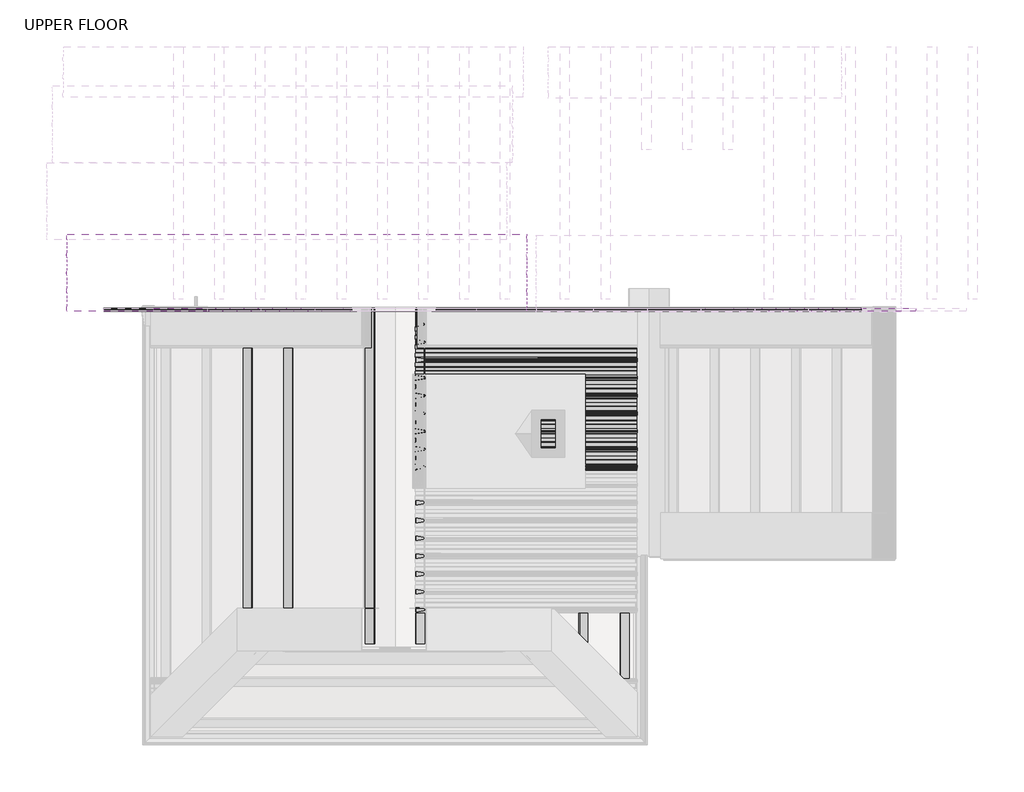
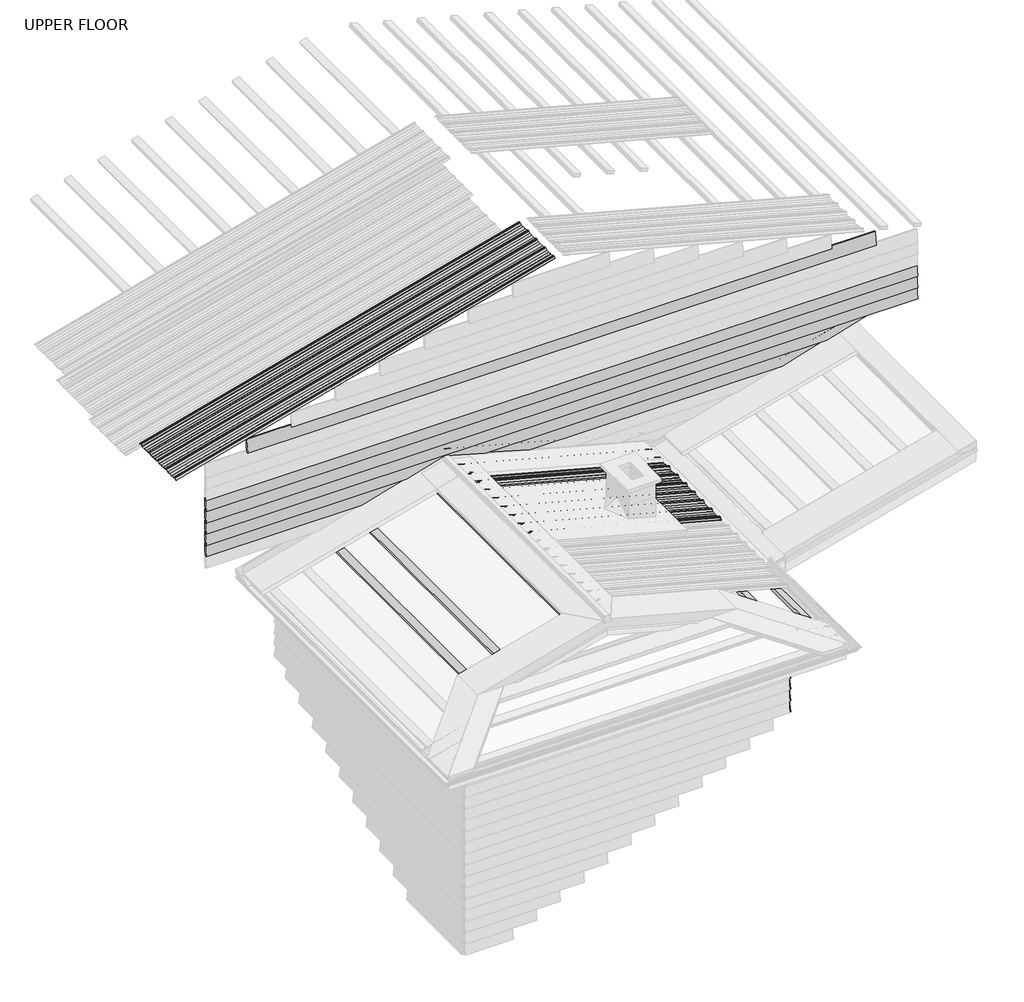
# One storey, part 5 of 8: 27 beams.
"""IFC4 building model written with IfcOpenShell, lengths in millimetres."""

from ifc_helpers import new_model, si_unit, point, frame, frame_2d, origin, place, context, project, spatial, polyline, circle_curve, trimmed, segment, composite_curve, outline, extrude, faceted_brep, transform, mapped, element, save
from components import beam_005bef61, beam_88fd5e57, beam_653da2ef, beam_8964b9ef, beam_29e33842, beam_1adccc99, beam_b3412224, beam_2acd9a67, timber_gauged_nz_90_x_45_ddc52903, timber_gauged_nz_90_x_45_22b23b48, timber_gauged_nz_90_x_45_fdef7c8e

model = new_model("IFC4")

# Units and contexts
model_context = context("Model", 3, world=origin())
ifc_project = project(units=[si_unit("LENGTHUNIT", "METRE", prefix="MILLI")], contexts=[model_context])

# Site, building, storey
site = spatial("IfcSite", under=ifc_project)
building = spatial("IfcBuilding", under=site)
storey = spatial("IfcBuildingStorey", under=building, Name="UPPER FLOOR", Elevation=2700.0)

# Beams
placement = place(None, origin())
element("IfcBeam", 1, ObjectType="3D_Metalcraft T-Rib : 3D_Metalcraft T-Rib", at=placement, inside=storey, context=model_context, shape_type="SweptSolid", body=[
    extrude(outline(composite_curve([segment(polyline([(0.0, 0.0), (41.1765297, -17.232464)]), True, "CONTINUOUS"), segment(trimmed(circle_curve(frame_2d((38.7817106, -20.9335667)), 4.4083239), [point((41.1765297, -17.232464))], [point((43.0853462, -19.9785591))], False, "CARTESIAN"), True, "CONTINUOUS"), segment(polyline([(43.0853462, -19.9785591), (48.0501249, -45.9497705)]), True, "CONTINUOUS"), segment(trimmed(circle_curve(frame_2d((49.8317805, -45.6091809)), 1.8139178), [point((48.0501249, -45.9497705))], [point((48.771325, -47.0808235))], True, "CARTESIAN"), True, "CONTINUOUS"), segment(trimmed(circle_curve(frame_2d((68.2146871, -24.1039222)), 30.0995402), [point((48.771325, -47.0808235))], [point((56.5999877, -51.8722689))], True, "CARTESIAN"), True, "CONTINUOUS"), segment(trimmed(circle_curve(frame_2d((68.2255997, -24.1084891)), 30.0995402), [point((56.5999877, -51.8722689))], [point((65.5078144, -54.0850794))], True, "CARTESIAN"), True, "CONTINUOUS"), segment(trimmed(circle_curve(frame_2d((65.8116479, -52.2967889)), 1.8139178), [point((65.5078144, -54.0850794))], [point((66.8196386, -53.8048513))], True, "CARTESIAN"), True, "CONTINUOUS"), segment(polyline([(66.8196386, -53.8048513), (88.1574709, -39.5426187)]), True, "CONTINUOUS"), segment(trimmed(circle_curve(frame_2d((88.43532, -39.9583106)), 0.5), [point((88.1574709, -39.5426187))], [point((88.7131691, -40.3740027))], False, "CARTESIAN"), True, "CONTINUOUS"), segment(polyline([(88.7131691, -40.3740027), (67.1225767, -54.8051806)]), True, "CONTINUOUS"), segment(trimmed(circle_curve(frame_2d((66.0571023, -53.2111166)), 1.9173616), [point((67.1225767, -54.8051806))], [point((65.8470629, -55.116939))], False, "CARTESIAN"), True, "CONTINUOUS"), segment(trimmed(circle_curve(frame_2d((68.2255997, -24.1084891)), 31.0995402), [point((65.8470629, -55.116939))], [point((56.2139301, -52.7947436))], False, "CARTESIAN"), True, "CONTINUOUS"), segment(trimmed(circle_curve(frame_2d((68.2146871, -24.1039222)), 31.0995402), [point((56.2139301, -52.7947436))], [point((47.7982512, -47.5634735))], False, "CARTESIAN"), True, "CONTINUOUS"), segment(trimmed(circle_curve(frame_2d((49.0082552, -46.0761383)), 1.9173616), [point((47.7982512, -47.5634735))], [point((47.1249957, -46.436151))], False, "CARTESIAN"), True, "CONTINUOUS"), segment(polyline([(47.1249957, -46.436151), (42.1060781, -20.1817343)]), True, "CONTINUOUS"), segment(trimmed(circle_curve(frame_2d((38.7817106, -20.9335667)), 3.4083239), [point((42.1060781, -20.1817343))], [point((40.7028446, -18.1182665))], True, "CARTESIAN"), True, "CONTINUOUS"), segment(polyline([(40.7028446, -18.1182665), (-0.2008129, -1.0), (-4.6628868, -1.0), (-39.4345071, 13.551996), (-42.5665219, 16.730138), (-81.2568943, 32.92214)]), True, "CONTINUOUS"), segment(trimmed(circle_curve(frame_2d((-81.9136301, 29.5776865)), 3.4083239), [point((-81.2568943, 32.92214))], [point((-83.9015601, 32.3462251))], True, "CARTESIAN"), True, "CONTINUOUS"), segment(polyline([(-83.9015601, 32.3462251), (-107.045629, 16.8767016)]), True, "CONTINUOUS"), segment(trimmed(circle_curve(frame_2d((-109.2669983, 20.3574483)), 4.1291741), [point((-107.045629, 16.8767016))], [point((-109.5750829, 16.2397836))], False, "CARTESIAN"), True, "CONTINUOUS"), segment(trimmed(circle_curve(frame_2d((-107.0445899, 49.2424527)), 33.0995402), [point((-109.5750829, 16.2397836))], [point((-119.8283746, 18.7112488))], False, "CARTESIAN"), True, "CONTINUOUS"), segment(trimmed(circle_curve(frame_2d((-107.0555025, 49.2470196)), 33.0995402), [point((-119.8283746, 18.7112488))], [point((-128.7856734, 24.279456))], False, "CARTESIAN"), True, "CONTINUOUS"), segment(trimmed(circle_curve(frame_2d((-126.0690895, 27.3891587)), 4.1291741), [point((-128.7856734, 24.279456))], [point((-130.1074961, 26.5281413))], False, "CARTESIAN"), True, "CONTINUOUS"), segment(polyline([(-130.1074961, 26.5281413), (-135.3344879, 53.8710132)]), True, "CONTINUOUS"), segment(trimmed(circle_curve(frame_2d((-138.7017641, 53.3436396)), 3.4083239), [point((-135.3344879, 53.8710132))], [point((-136.78063, 56.1589398))], True, "CARTESIAN"), True, "CONTINUOUS"), segment(polyline([(-136.78063, 56.1589398), (-175.4710024, 72.3509418), (-179.9330763, 72.3509418), (-214.7046967, 86.9029378), (-217.8367115, 90.0810798), (-256.5270839, 106.2730818)]), True, "CONTINUOUS"), segment(trimmed(circle_curve(frame_2d((-257.1838197, 102.9286282)), 3.4083239), [point((-256.5270839, 106.2730818))], [point((-259.1717496, 105.6971669))], True, "CARTESIAN"), True, "CONTINUOUS"), segment(polyline([(-259.1717496, 105.6971669), (-282.3158186, 90.2276434)]), True, "CONTINUOUS"), segment(trimmed(circle_curve(frame_2d((-284.5371879, 93.7083901)), 4.1291741), [point((-282.3158186, 90.2276434))], [point((-284.8452724, 89.5907254))], False, "CARTESIAN"), True, "CONTINUOUS"), segment(trimmed(circle_curve(frame_2d((-282.3147794, 122.5933945)), 33.0995402), [point((-284.8452724, 89.5907254))], [point((-295.0985641, 92.0621906))], False, "CARTESIAN"), True, "CONTINUOUS"), segment(trimmed(circle_curve(frame_2d((-282.325692, 122.5979614)), 33.0995402), [point((-295.0985641, 92.0621906))], [point((-304.0558629, 97.6303978))], False, "CARTESIAN"), True, "CONTINUOUS"), segment(trimmed(circle_curve(frame_2d((-301.3392791, 100.7401005)), 4.1291741), [point((-304.0558629, 97.6303978))], [point((-305.3776856, 99.8790831))], False, "CARTESIAN"), True, "CONTINUOUS"), segment(polyline([(-305.3776856, 99.8790831), (-310.6046774, 127.221955)]), True, "CONTINUOUS"), segment(trimmed(circle_curve(frame_2d((-313.9719536, 126.6945814)), 3.4083239), [point((-310.6046774, 127.221955))], [point((-312.0508195, 129.5098816))], True, "CARTESIAN"), True, "CONTINUOUS"), segment(polyline([(-312.0508195, 129.5098816), (-350.7411919, 145.7018835), (-355.2032658, 145.7018836), (-389.9748862, 160.2538796), (-393.106901, 163.4320216), (-431.7972734, 179.6240236)]), True, "CONTINUOUS"), segment(trimmed(circle_curve(frame_2d((-432.4540092, 176.27957)), 3.4083239), [point((-431.7972734, 179.6240236))], [point((-434.4419392, 179.0481087))], True, "CARTESIAN"), True, "CONTINUOUS"), segment(polyline([(-434.4419392, 179.0481087), (-457.5860081, 163.5785852)]), True, "CONTINUOUS"), segment(trimmed(circle_curve(frame_2d((-459.8073774, 167.0593319)), 4.1291741), [point((-457.5860081, 163.5785852))], [point((-460.1154619, 162.9416672))], False, "CARTESIAN"), True, "CONTINUOUS"), segment(trimmed(circle_curve(frame_2d((-457.5849689, 195.9443363)), 33.0995402), [point((-460.1154619, 162.9416672))], [point((-470.3687537, 165.4131324))], False, "CARTESIAN"), True, "CONTINUOUS"), segment(trimmed(circle_curve(frame_2d((-457.5958815, 195.9489032)), 33.0995402), [point((-470.3687537, 165.4131324))], [point((-479.3260524, 170.9813396))], False, "CARTESIAN"), True, "CONTINUOUS"), segment(trimmed(circle_curve(frame_2d((-476.6094686, 174.0910423)), 4.1291741), [point((-479.3260524, 170.9813396))], [point((-480.6478751, 173.2300249))], False, "CARTESIAN"), True, "CONTINUOUS"), segment(polyline([(-480.6478751, 173.2300249), (-485.874867, 200.5728968)]), True, "CONTINUOUS"), segment(trimmed(circle_curve(frame_2d((-489.2421431, 200.0455231)), 3.4083239), [point((-485.874867, 200.5728968))], [point((-487.3210091, 202.8608234))], True, "CARTESIAN"), True, "CONTINUOUS"), segment(polyline([(-487.3210091, 202.8608234), (-526.0113815, 219.0528253), (-530.4734554, 219.0528254), (-565.2450757, 233.6048214), (-568.3770905, 236.7829634), (-607.0674629, 252.9749654)]), True, "CONTINUOUS"), segment(trimmed(circle_curve(frame_2d((-607.7241987, 249.6305118)), 3.4083239), [point((-607.0674629, 252.9749654))], [point((-609.7121287, 252.3990505))], True, "CARTESIAN"), True, "CONTINUOUS"), segment(polyline([(-609.7121287, 252.3990505), (-632.8561976, 236.929527)]), True, "CONTINUOUS"), segment(trimmed(circle_curve(frame_2d((-635.0775669, 240.4102737)), 4.1291741), [point((-632.8561976, 236.929527))], [point((-635.3856515, 236.292609))], False, "CARTESIAN"), True, "CONTINUOUS"), segment(trimmed(circle_curve(frame_2d((-632.8551585, 269.2952781)), 33.0995402), [point((-635.3856515, 236.292609))], [point((-645.6389433, 238.7640742))], False, "CARTESIAN"), True, "CONTINUOUS"), segment(trimmed(circle_curve(frame_2d((-632.8660711, 269.299845)), 33.0995402), [point((-645.6389433, 238.7640742))], [point((-654.596242, 244.3322814))], False, "CARTESIAN"), True, "CONTINUOUS"), segment(trimmed(circle_curve(frame_2d((-651.8796581, 247.441984)), 4.1291741), [point((-654.596242, 244.3322814))], [point((-655.9180648, 246.5809668))], False, "CARTESIAN"), True, "CONTINUOUS"), segment(polyline([(-655.9180648, 246.5809668), (-660.7374633, 271.7916806)]), True, "CONTINUOUS"), segment(trimmed(circle_curve(frame_2d((-664.0618307, 271.0398477)), 3.4083239), [point((-660.7374633, 271.7916806))], [point((-662.1406965, 273.855148))], True, "CARTESIAN"), True, "CONTINUOUS"), segment(polyline([(-662.1406965, 273.855148), (-665.4188428, 275.227059)]), True, "CONTINUOUS"), segment(trimmed(circle_curve(frame_2d((-665.225814, 275.6882964)), 0.5), [point((-665.4188428, 275.227059))], [point((-665.0327852, 276.1495337))], False, "CARTESIAN"), True, "CONTINUOUS"), segment(polyline([(-665.0327852, 276.1495337), (-661.6670116, 274.7409504)]), True, "CONTINUOUS"), segment(trimmed(circle_curve(frame_2d((-664.0618307, 271.0398477)), 4.4083239), [point((-661.6670116, 274.7409504))], [point((-659.7581951, 271.994856))], False, "CARTESIAN"), True, "CONTINUOUS"), segment(polyline([(-659.7581951, 271.994856), (-654.9379765, 246.7798514)]), True, "CONTINUOUS"), segment(trimmed(circle_curve(frame_2d((-651.8796581, 247.441984)), 3.1291741), [point((-654.9379765, 246.7798514))], [point((-653.9389937, 245.0859562))], True, "CARTESIAN"), True, "CONTINUOUS"), segment(trimmed(circle_curve(frame_2d((-632.8660711, 269.299845)), 32.0995402), [point((-653.9389937, 245.0859562))], [point((-645.2528857, 239.6865489))], True, "CARTESIAN"), True, "CONTINUOUS"), segment(trimmed(circle_curve(frame_2d((-632.8551585, 269.2952781)), 32.0995402), [point((-645.2528857, 239.6865489))], [point((-635.3101766, 237.2897571))], True, "CARTESIAN"), True, "CONTINUOUS"), segment(trimmed(circle_curve(frame_2d((-635.0775669, 240.4102737)), 3.1291741), [point((-635.3101766, 237.2897571))], [point((-633.4024833, 237.7672024))], True, "CARTESIAN"), True, "CONTINUOUS"), segment(polyline([(-633.4024833, 237.7672024), (-610.0647921, 253.3661432)]), True, "CONTINUOUS"), segment(trimmed(circle_curve(frame_2d((-607.7241987, 249.6305118)), 4.4083239), [point((-610.0647921, 253.3661432))], [point((-606.7690327, 253.9341123))], False, "CARTESIAN"), True, "CONTINUOUS"), segment(polyline([(-606.7690327, 253.9341123), (-567.8057882, 237.6279128), (-564.6737734, 234.4497707), (-530.2726425, 220.0528253), (-525.8105686, 220.0528254), (-486.847324, 203.7466258)]), True, "CONTINUOUS"), segment(trimmed(circle_curve(frame_2d((-489.2421431, 200.0455231)), 4.4083239), [point((-486.847324, 203.7466258))], [point((-484.9385075, 201.0005307))], False, "CARTESIAN"), True, "CONTINUOUS"), segment(polyline([(-484.9385075, 201.0005307), (-479.6677869, 173.4289097)]), True, "CONTINUOUS"), segment(trimmed(circle_curve(frame_2d((-476.6094686, 174.0910423)), 3.1291741), [point((-479.6677869, 173.4289097))], [point((-478.6688042, 171.7350144))], True, "CARTESIAN"), True, "CONTINUOUS"), segment(trimmed(circle_curve(frame_2d((-457.5958815, 195.9489032)), 32.0995402), [point((-478.6688042, 171.7350144))], [point((-469.9826961, 166.3356071))], True, "CARTESIAN"), True, "CONTINUOUS"), segment(trimmed(circle_curve(frame_2d((-457.5849689, 195.9443363)), 32.0995402), [point((-469.9826961, 166.3356071))], [point((-460.0399871, 163.9388154))], True, "CARTESIAN"), True, "CONTINUOUS"), segment(trimmed(circle_curve(frame_2d((-459.8073774, 167.0593319)), 3.1291741), [point((-460.0399871, 163.9388154))], [point((-458.1322938, 164.4162606))], True, "CARTESIAN"), True, "CONTINUOUS"), segment(polyline([(-458.1322938, 164.4162606), (-434.7946026, 180.0152014)]), True, "CONTINUOUS"), segment(trimmed(circle_curve(frame_2d((-432.4540092, 176.27957)), 4.4083239), [point((-434.7946026, 180.0152014))], [point((-431.4988431, 180.5831705))], False, "CARTESIAN"), True, "CONTINUOUS"), segment(polyline([(-431.4988431, 180.5831705), (-392.5355987, 164.276971), (-389.4035839, 161.0988289), (-355.002453, 146.7018835), (-350.5403791, 146.7018836), (-311.5771345, 130.395684)]), True, "CONTINUOUS"), segment(trimmed(circle_curve(frame_2d((-313.9719536, 126.6945814)), 4.4083239), [point((-311.5771345, 130.395684))], [point((-309.6683179, 127.649589))], False, "CARTESIAN"), True, "CONTINUOUS"), segment(polyline([(-309.6683179, 127.649589), (-304.3975974, 100.0779679)]), True, "CONTINUOUS"), segment(trimmed(circle_curve(frame_2d((-301.3392791, 100.7401005)), 3.1291741), [point((-304.3975974, 100.0779679))], [point((-303.3986147, 98.3840726))], True, "CARTESIAN"), True, "CONTINUOUS"), segment(trimmed(circle_curve(frame_2d((-282.325692, 122.5979614)), 32.0995402), [point((-303.3986147, 98.3840726))], [point((-294.7125065, 92.9846653))], True, "CARTESIAN"), True, "CONTINUOUS"), segment(trimmed(circle_curve(frame_2d((-282.3147794, 122.5933945)), 32.0995402), [point((-294.7125065, 92.9846653))], [point((-284.7697976, 90.5878736))], True, "CARTESIAN"), True, "CONTINUOUS"), segment(trimmed(circle_curve(frame_2d((-284.5371879, 93.7083901)), 3.1291741), [point((-284.7697976, 90.5878736))], [point((-282.8621043, 91.0653188))], True, "CARTESIAN"), True, "CONTINUOUS"), segment(polyline([(-282.8621043, 91.0653188), (-259.5244131, 106.6642596)]), True, "CONTINUOUS"), segment(trimmed(circle_curve(frame_2d((-257.1838197, 102.9286282)), 4.4083239), [point((-259.5244131, 106.6642596))], [point((-256.2286536, 107.2322287))], False, "CARTESIAN"), True, "CONTINUOUS"), segment(polyline([(-256.2286536, 107.2322287), (-217.2654091, 90.9260292), (-214.1333944, 87.7478871), (-179.7322635, 73.3509417), (-175.2701895, 73.3509418), (-136.306945, 57.0447423)]), True, "CONTINUOUS"), segment(trimmed(circle_curve(frame_2d((-138.7017641, 53.3436396)), 4.4083239), [point((-136.306945, 57.0447423))], [point((-134.3981284, 54.2986472))], False, "CARTESIAN"), True, "CONTINUOUS"), segment(polyline([(-134.3981284, 54.2986472), (-129.1274079, 26.7270261)]), True, "CONTINUOUS"), segment(trimmed(circle_curve(frame_2d((-126.0690895, 27.3891587)), 3.1291741), [point((-129.1274079, 26.7270261))], [point((-128.1284251, 25.0331308))], True, "CARTESIAN"), True, "CONTINUOUS"), segment(trimmed(circle_curve(frame_2d((-107.0555025, 49.2470196)), 32.0995402), [point((-128.1284251, 25.0331308))], [point((-119.442317, 19.6337235))], True, "CARTESIAN"), True, "CONTINUOUS"), segment(trimmed(circle_curve(frame_2d((-107.0445899, 49.2424527)), 32.0995402), [point((-119.442317, 19.6337235))], [point((-109.4996081, 17.2369318))], True, "CARTESIAN"), True, "CONTINUOUS"), segment(trimmed(circle_curve(frame_2d((-109.2669983, 20.3574483)), 3.1291741), [point((-109.4996081, 17.2369318))], [point((-107.5919148, 17.714377))], True, "CARTESIAN"), True, "CONTINUOUS"), segment(polyline([(-107.5919148, 17.714377), (-84.2542235, 33.3133178)]), True, "CONTINUOUS"), segment(trimmed(circle_curve(frame_2d((-81.9136301, 29.5776865)), 4.4083239), [point((-84.2542235, 33.3133178))], [point((-80.9584641, 33.8812869))], False, "CARTESIAN"), True, "CONTINUOUS"), segment(polyline([(-80.9584641, 33.8812869), (-41.9952196, 17.5750874), (-38.8632048, 14.3969453), (-4.4620739, -1e-07), (0.0, 0.0)]), True, "CONTINUOUS")], self_intersect=False)), frame((-11190.2847188, -23088.4241842, 3266.5991596), z_axis=(-0.9659258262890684, 0.0, 0.25881904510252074), x_axis=(-0.09991905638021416, 0.9224746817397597, -0.3729029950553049)), (0.0, 0.0, 1.0), 2590.2025973),
])
element("IfcBeam", 2, ObjectType="3D_Metalcraft T-Rib : 3D_Metalcraft T-Rib", at=placement, inside=storey, context=model_context, shape_type="SweptSolid", body=[
    extrude(outline(composite_curve([segment(polyline([(0.0, 0.0), (41.1765297, -17.232464)]), True, "CONTINUOUS"), segment(trimmed(circle_curve(frame_2d((38.7817106, -20.9335667)), 4.4083239), [point((41.1765297, -17.232464))], [point((43.0853462, -19.9785591))], False, "CARTESIAN"), True, "CONTINUOUS"), segment(polyline([(43.0853462, -19.9785591), (48.0501249, -45.9497705)]), True, "CONTINUOUS"), segment(trimmed(circle_curve(frame_2d((49.8317805, -45.6091809)), 1.8139178), [point((48.0501249, -45.9497705))], [point((48.771325, -47.0808235))], True, "CARTESIAN"), True, "CONTINUOUS"), segment(trimmed(circle_curve(frame_2d((68.2146871, -24.1039222)), 30.0995402), [point((48.771325, -47.0808235))], [point((56.5999877, -51.8722689))], True, "CARTESIAN"), True, "CONTINUOUS"), segment(trimmed(circle_curve(frame_2d((68.2255997, -24.1084891)), 30.0995402), [point((56.5999877, -51.8722689))], [point((65.5078144, -54.0850794))], True, "CARTESIAN"), True, "CONTINUOUS"), segment(trimmed(circle_curve(frame_2d((65.8116479, -52.2967889)), 1.8139178), [point((65.5078144, -54.0850794))], [point((66.8196386, -53.8048513))], True, "CARTESIAN"), True, "CONTINUOUS"), segment(polyline([(66.8196386, -53.8048513), (88.1574709, -39.5426187)]), True, "CONTINUOUS"), segment(trimmed(circle_curve(frame_2d((88.43532, -39.9583106)), 0.5), [point((88.1574709, -39.5426187))], [point((88.7131691, -40.3740027))], False, "CARTESIAN"), True, "CONTINUOUS"), segment(polyline([(88.7131691, -40.3740027), (67.1225767, -54.8051806)]), True, "CONTINUOUS"), segment(trimmed(circle_curve(frame_2d((66.0571023, -53.2111166)), 1.9173616), [point((67.1225767, -54.8051806))], [point((65.8470629, -55.116939))], False, "CARTESIAN"), True, "CONTINUOUS"), segment(trimmed(circle_curve(frame_2d((68.2255997, -24.1084891)), 31.0995402), [point((65.8470629, -55.116939))], [point((56.2139301, -52.7947436))], False, "CARTESIAN"), True, "CONTINUOUS"), segment(trimmed(circle_curve(frame_2d((68.2146871, -24.1039222)), 31.0995402), [point((56.2139301, -52.7947436))], [point((47.7982512, -47.5634735))], False, "CARTESIAN"), True, "CONTINUOUS"), segment(trimmed(circle_curve(frame_2d((49.0082552, -46.0761383)), 1.9173616), [point((47.7982512, -47.5634735))], [point((47.1249957, -46.436151))], False, "CARTESIAN"), True, "CONTINUOUS"), segment(polyline([(47.1249957, -46.436151), (42.1060781, -20.1817343)]), True, "CONTINUOUS"), segment(trimmed(circle_curve(frame_2d((38.7817106, -20.9335667)), 3.4083239), [point((42.1060781, -20.1817343))], [point((40.7028446, -18.1182665))], True, "CARTESIAN"), True, "CONTINUOUS"), segment(polyline([(40.7028446, -18.1182665), (-0.2008129, -1.0), (-4.6628868, -1.0), (-39.4345071, 13.551996), (-42.5665219, 16.730138), (-81.2568943, 32.92214)]), True, "CONTINUOUS"), segment(trimmed(circle_curve(frame_2d((-81.9136301, 29.5776865)), 3.4083239), [point((-81.2568943, 32.92214))], [point((-83.9015601, 32.3462251))], True, "CARTESIAN"), True, "CONTINUOUS"), segment(polyline([(-83.9015601, 32.3462251), (-107.045629, 16.8767016)]), True, "CONTINUOUS"), segment(trimmed(circle_curve(frame_2d((-109.2669983, 20.3574483)), 4.1291741), [point((-107.045629, 16.8767016))], [point((-109.5750829, 16.2397836))], False, "CARTESIAN"), True, "CONTINUOUS"), segment(trimmed(circle_curve(frame_2d((-107.0445899, 49.2424527)), 33.0995402), [point((-109.5750829, 16.2397836))], [point((-119.8283746, 18.7112488))], False, "CARTESIAN"), True, "CONTINUOUS"), segment(trimmed(circle_curve(frame_2d((-107.0555025, 49.2470196)), 33.0995402), [point((-119.8283746, 18.7112488))], [point((-128.7856734, 24.279456))], False, "CARTESIAN"), True, "CONTINUOUS"), segment(trimmed(circle_curve(frame_2d((-126.0690895, 27.3891587)), 4.1291741), [point((-128.7856734, 24.279456))], [point((-130.1074961, 26.5281413))], False, "CARTESIAN"), True, "CONTINUOUS"), segment(polyline([(-130.1074961, 26.5281413), (-135.3344879, 53.8710132)]), True, "CONTINUOUS"), segment(trimmed(circle_curve(frame_2d((-138.7017641, 53.3436396)), 3.4083239), [point((-135.3344879, 53.8710132))], [point((-136.78063, 56.1589398))], True, "CARTESIAN"), True, "CONTINUOUS"), segment(polyline([(-136.78063, 56.1589398), (-175.4710024, 72.3509418), (-179.9330763, 72.3509418), (-214.7046967, 86.9029378), (-217.8367115, 90.0810798), (-256.5270839, 106.2730818)]), True, "CONTINUOUS"), segment(trimmed(circle_curve(frame_2d((-257.1838197, 102.9286282)), 3.4083239), [point((-256.5270839, 106.2730818))], [point((-259.1717496, 105.6971669))], True, "CARTESIAN"), True, "CONTINUOUS"), segment(polyline([(-259.1717496, 105.6971669), (-282.3158186, 90.2276434)]), True, "CONTINUOUS"), segment(trimmed(circle_curve(frame_2d((-284.5371879, 93.7083901)), 4.1291741), [point((-282.3158186, 90.2276434))], [point((-284.8452724, 89.5907254))], False, "CARTESIAN"), True, "CONTINUOUS"), segment(trimmed(circle_curve(frame_2d((-282.3147794, 122.5933945)), 33.0995402), [point((-284.8452724, 89.5907254))], [point((-295.0985641, 92.0621906))], False, "CARTESIAN"), True, "CONTINUOUS"), segment(trimmed(circle_curve(frame_2d((-282.325692, 122.5979614)), 33.0995402), [point((-295.0985641, 92.0621906))], [point((-304.0558629, 97.6303978))], False, "CARTESIAN"), True, "CONTINUOUS"), segment(trimmed(circle_curve(frame_2d((-301.3392791, 100.7401005)), 4.1291741), [point((-304.0558629, 97.6303978))], [point((-305.3776856, 99.8790831))], False, "CARTESIAN"), True, "CONTINUOUS"), segment(polyline([(-305.3776856, 99.8790831), (-310.6046774, 127.221955)]), True, "CONTINUOUS"), segment(trimmed(circle_curve(frame_2d((-313.9719536, 126.6945814)), 3.4083239), [point((-310.6046774, 127.221955))], [point((-312.0508195, 129.5098816))], True, "CARTESIAN"), True, "CONTINUOUS"), segment(polyline([(-312.0508195, 129.5098816), (-350.7411919, 145.7018835), (-355.2032658, 145.7018836), (-389.9748862, 160.2538796), (-393.106901, 163.4320216), (-431.7972734, 179.6240236)]), True, "CONTINUOUS"), segment(trimmed(circle_curve(frame_2d((-432.4540092, 176.27957)), 3.4083239), [point((-431.7972734, 179.6240236))], [point((-434.4419392, 179.0481087))], True, "CARTESIAN"), True, "CONTINUOUS"), segment(polyline([(-434.4419392, 179.0481087), (-457.5860081, 163.5785852)]), True, "CONTINUOUS"), segment(trimmed(circle_curve(frame_2d((-459.8073774, 167.0593319)), 4.1291741), [point((-457.5860081, 163.5785852))], [point((-460.1154619, 162.9416672))], False, "CARTESIAN"), True, "CONTINUOUS"), segment(trimmed(circle_curve(frame_2d((-457.5849689, 195.9443363)), 33.0995402), [point((-460.1154619, 162.9416672))], [point((-470.3687537, 165.4131324))], False, "CARTESIAN"), True, "CONTINUOUS"), segment(trimmed(circle_curve(frame_2d((-457.5958815, 195.9489032)), 33.0995402), [point((-470.3687537, 165.4131324))], [point((-479.3260524, 170.9813396))], False, "CARTESIAN"), True, "CONTINUOUS"), segment(trimmed(circle_curve(frame_2d((-476.6094686, 174.0910423)), 4.1291741), [point((-479.3260524, 170.9813396))], [point((-480.6478751, 173.2300249))], False, "CARTESIAN"), True, "CONTINUOUS"), segment(polyline([(-480.6478751, 173.2300249), (-485.874867, 200.5728968)]), True, "CONTINUOUS"), segment(trimmed(circle_curve(frame_2d((-489.2421431, 200.0455231)), 3.4083239), [point((-485.874867, 200.5728968))], [point((-487.3210091, 202.8608234))], True, "CARTESIAN"), True, "CONTINUOUS"), segment(polyline([(-487.3210091, 202.8608234), (-526.0113815, 219.0528253), (-530.4734554, 219.0528254), (-565.2450757, 233.6048214), (-568.3770905, 236.7829634), (-607.0674629, 252.9749654)]), True, "CONTINUOUS"), segment(trimmed(circle_curve(frame_2d((-607.7241987, 249.6305118)), 3.4083239), [point((-607.0674629, 252.9749654))], [point((-609.7121287, 252.3990505))], True, "CARTESIAN"), True, "CONTINUOUS"), segment(polyline([(-609.7121287, 252.3990505), (-632.8561976, 236.929527)]), True, "CONTINUOUS"), segment(trimmed(circle_curve(frame_2d((-635.0775669, 240.4102737)), 4.1291741), [point((-632.8561976, 236.929527))], [point((-635.3856515, 236.292609))], False, "CARTESIAN"), True, "CONTINUOUS"), segment(trimmed(circle_curve(frame_2d((-632.8551585, 269.2952781)), 33.0995402), [point((-635.3856515, 236.292609))], [point((-645.6389433, 238.7640742))], False, "CARTESIAN"), True, "CONTINUOUS"), segment(trimmed(circle_curve(frame_2d((-632.8660711, 269.299845)), 33.0995402), [point((-645.6389433, 238.7640742))], [point((-654.596242, 244.3322814))], False, "CARTESIAN"), True, "CONTINUOUS"), segment(trimmed(circle_curve(frame_2d((-651.8796581, 247.441984)), 4.1291741), [point((-654.596242, 244.3322814))], [point((-655.9180648, 246.5809668))], False, "CARTESIAN"), True, "CONTINUOUS"), segment(polyline([(-655.9180648, 246.5809668), (-660.7374633, 271.7916806)]), True, "CONTINUOUS"), segment(trimmed(circle_curve(frame_2d((-664.0618307, 271.0398477)), 3.4083239), [point((-660.7374633, 271.7916806))], [point((-662.1406965, 273.855148))], True, "CARTESIAN"), True, "CONTINUOUS"), segment(polyline([(-662.1406965, 273.855148), (-665.4188428, 275.227059)]), True, "CONTINUOUS"), segment(trimmed(circle_curve(frame_2d((-665.225814, 275.6882964)), 0.5), [point((-665.4188428, 275.227059))], [point((-665.0327852, 276.1495337))], False, "CARTESIAN"), True, "CONTINUOUS"), segment(polyline([(-665.0327852, 276.1495337), (-661.6670116, 274.7409504)]), True, "CONTINUOUS"), segment(trimmed(circle_curve(frame_2d((-664.0618307, 271.0398477)), 4.4083239), [point((-661.6670116, 274.7409504))], [point((-659.7581951, 271.994856))], False, "CARTESIAN"), True, "CONTINUOUS"), segment(polyline([(-659.7581951, 271.994856), (-654.9379765, 246.7798514)]), True, "CONTINUOUS"), segment(trimmed(circle_curve(frame_2d((-651.8796581, 247.441984)), 3.1291741), [point((-654.9379765, 246.7798514))], [point((-653.9389937, 245.0859562))], True, "CARTESIAN"), True, "CONTINUOUS"), segment(trimmed(circle_curve(frame_2d((-632.8660711, 269.299845)), 32.0995402), [point((-653.9389937, 245.0859562))], [point((-645.2528857, 239.6865489))], True, "CARTESIAN"), True, "CONTINUOUS"), segment(trimmed(circle_curve(frame_2d((-632.8551585, 269.2952781)), 32.0995402), [point((-645.2528857, 239.6865489))], [point((-635.3101766, 237.2897571))], True, "CARTESIAN"), True, "CONTINUOUS"), segment(trimmed(circle_curve(frame_2d((-635.0775669, 240.4102737)), 3.1291741), [point((-635.3101766, 237.2897571))], [point((-633.4024833, 237.7672024))], True, "CARTESIAN"), True, "CONTINUOUS"), segment(polyline([(-633.4024833, 237.7672024), (-610.0647921, 253.3661432)]), True, "CONTINUOUS"), segment(trimmed(circle_curve(frame_2d((-607.7241987, 249.6305118)), 4.4083239), [point((-610.0647921, 253.3661432))], [point((-606.7690327, 253.9341123))], False, "CARTESIAN"), True, "CONTINUOUS"), segment(polyline([(-606.7690327, 253.9341123), (-567.8057882, 237.6279128), (-564.6737734, 234.4497707), (-530.2726425, 220.0528253), (-525.8105686, 220.0528254), (-486.847324, 203.7466258)]), True, "CONTINUOUS"), segment(trimmed(circle_curve(frame_2d((-489.2421431, 200.0455231)), 4.4083239), [point((-486.847324, 203.7466258))], [point((-484.9385075, 201.0005307))], False, "CARTESIAN"), True, "CONTINUOUS"), segment(polyline([(-484.9385075, 201.0005307), (-479.6677869, 173.4289097)]), True, "CONTINUOUS"), segment(trimmed(circle_curve(frame_2d((-476.6094686, 174.0910423)), 3.1291741), [point((-479.6677869, 173.4289097))], [point((-478.6688042, 171.7350144))], True, "CARTESIAN"), True, "CONTINUOUS"), segment(trimmed(circle_curve(frame_2d((-457.5958815, 195.9489032)), 32.0995402), [point((-478.6688042, 171.7350144))], [point((-469.9826961, 166.3356071))], True, "CARTESIAN"), True, "CONTINUOUS"), segment(trimmed(circle_curve(frame_2d((-457.5849689, 195.9443363)), 32.0995402), [point((-469.9826961, 166.3356071))], [point((-460.0399871, 163.9388154))], True, "CARTESIAN"), True, "CONTINUOUS"), segment(trimmed(circle_curve(frame_2d((-459.8073774, 167.0593319)), 3.1291741), [point((-460.0399871, 163.9388154))], [point((-458.1322938, 164.4162606))], True, "CARTESIAN"), True, "CONTINUOUS"), segment(polyline([(-458.1322938, 164.4162606), (-434.7946026, 180.0152014)]), True, "CONTINUOUS"), segment(trimmed(circle_curve(frame_2d((-432.4540092, 176.27957)), 4.4083239), [point((-434.7946026, 180.0152014))], [point((-431.4988431, 180.5831705))], False, "CARTESIAN"), True, "CONTINUOUS"), segment(polyline([(-431.4988431, 180.5831705), (-392.5355987, 164.276971), (-389.4035839, 161.0988289), (-355.002453, 146.7018835), (-350.5403791, 146.7018836), (-311.5771345, 130.395684)]), True, "CONTINUOUS"), segment(trimmed(circle_curve(frame_2d((-313.9719536, 126.6945814)), 4.4083239), [point((-311.5771345, 130.395684))], [point((-309.6683179, 127.649589))], False, "CARTESIAN"), True, "CONTINUOUS"), segment(polyline([(-309.6683179, 127.649589), (-304.3975974, 100.0779679)]), True, "CONTINUOUS"), segment(trimmed(circle_curve(frame_2d((-301.3392791, 100.7401005)), 3.1291741), [point((-304.3975974, 100.0779679))], [point((-303.3986147, 98.3840726))], True, "CARTESIAN"), True, "CONTINUOUS"), segment(trimmed(circle_curve(frame_2d((-282.325692, 122.5979614)), 32.0995402), [point((-303.3986147, 98.3840726))], [point((-294.7125065, 92.9846653))], True, "CARTESIAN"), True, "CONTINUOUS"), segment(trimmed(circle_curve(frame_2d((-282.3147794, 122.5933945)), 32.0995402), [point((-294.7125065, 92.9846653))], [point((-284.7697976, 90.5878736))], True, "CARTESIAN"), True, "CONTINUOUS"), segment(trimmed(circle_curve(frame_2d((-284.5371879, 93.7083901)), 3.1291741), [point((-284.7697976, 90.5878736))], [point((-282.8621043, 91.0653188))], True, "CARTESIAN"), True, "CONTINUOUS"), segment(polyline([(-282.8621043, 91.0653188), (-259.5244131, 106.6642596)]), True, "CONTINUOUS"), segment(trimmed(circle_curve(frame_2d((-257.1838197, 102.9286282)), 4.4083239), [point((-259.5244131, 106.6642596))], [point((-256.2286536, 107.2322287))], False, "CARTESIAN"), True, "CONTINUOUS"), segment(polyline([(-256.2286536, 107.2322287), (-217.2654091, 90.9260292), (-214.1333944, 87.7478871), (-179.7322635, 73.3509417), (-175.2701895, 73.3509418), (-136.306945, 57.0447423)]), True, "CONTINUOUS"), segment(trimmed(circle_curve(frame_2d((-138.7017641, 53.3436396)), 4.4083239), [point((-136.306945, 57.0447423))], [point((-134.3981284, 54.2986472))], False, "CARTESIAN"), True, "CONTINUOUS"), segment(polyline([(-134.3981284, 54.2986472), (-129.1274079, 26.7270261)]), True, "CONTINUOUS"), segment(trimmed(circle_curve(frame_2d((-126.0690895, 27.3891587)), 3.1291741), [point((-129.1274079, 26.7270261))], [point((-128.1284251, 25.0331308))], True, "CARTESIAN"), True, "CONTINUOUS"), segment(trimmed(circle_curve(frame_2d((-107.0555025, 49.2470196)), 32.0995402), [point((-128.1284251, 25.0331308))], [point((-119.442317, 19.6337235))], True, "CARTESIAN"), True, "CONTINUOUS"), segment(trimmed(circle_curve(frame_2d((-107.0445899, 49.2424527)), 32.0995402), [point((-119.442317, 19.6337235))], [point((-109.4996081, 17.2369318))], True, "CARTESIAN"), True, "CONTINUOUS"), segment(trimmed(circle_curve(frame_2d((-109.2669983, 20.3574483)), 3.1291741), [point((-109.4996081, 17.2369318))], [point((-107.5919148, 17.714377))], True, "CARTESIAN"), True, "CONTINUOUS"), segment(polyline([(-107.5919148, 17.714377), (-84.2542235, 33.3133178)]), True, "CONTINUOUS"), segment(trimmed(circle_curve(frame_2d((-81.9136301, 29.5776865)), 4.4083239), [point((-84.2542235, 33.3133178))], [point((-80.9584641, 33.8812869))], False, "CARTESIAN"), True, "CONTINUOUS"), segment(polyline([(-80.9584641, 33.8812869), (-41.9952196, 17.5750874), (-38.8632048, 14.3969453), (-4.4620739, -1e-07), (0.0, 0.0)]), True, "CONTINUOUS")], self_intersect=False)), frame((-11190.2847188, -22328.4241842, 3266.5991596), z_axis=(-0.9659258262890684, 0.0, 0.25881904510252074), x_axis=(-0.09991905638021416, 0.9224746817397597, -0.3729029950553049)), (0.0, 0.0, 1.0), 2590.2025973),
])
element("IfcBeam", 3, ObjectType="weatherboad : weatherboad", at=placement, inside=storey, context=model_context, shape_type="Brep", body=[
    faceted_brep([(-16868.1375384, -22095.3135714, 3909.6426274), (-16868.1375384, -22086.1704124, 3908.5199886), (-16868.1375384, -22086.1704124, 3830.5676527), (-16868.1375384, -22098.6777057, 3728.7039226), (-16868.1375384, -22117.5360826, 3731.0194401), (-14855.5220505, -22117.5360826, 3731.0194401), (-14188.8912401, -22095.3135714, 3909.6426274), (-14864.1636796, -22098.6777057, 3728.7039226), (-14484.0030634, -22086.1704124, 3830.5676527), (-14193.080985, -22086.1704124, 3908.5199886)], [[[0, 1, 2, 3, 4]], [[0, 4, 5, 6]], [[4, 3, 7, 5]], [[3, 2, 8, 7]], [[2, 1, 9, 8]], [[1, 0, 6, 9]], [[6, 5, 7, 8, 9]]]),
    faceted_brep([(-13357.6029335, -22095.3135714, 3909.6426274), (-12690.9721231, -22117.5360826, 3731.0194401), (-9425.3029537, -22117.5360826, 3731.0194401), (-8758.6721433, -22095.3135714, 3909.6426274), (-12682.330494, -22098.6777057, 3728.7039226), (-9433.9445828, -22098.6777057, 3728.7039226), (-13062.4911102, -22086.1704124, 3830.5676527), (-9053.7839666, -22086.1704124, 3830.5676527), (-13353.4131886, -22086.1704124, 3908.5199886), (-8762.8618882, -22086.1704124, 3908.5199886)], [[[0, 1, 2, 3]], [[1, 4, 5, 2]], [[4, 6, 7, 5]], [[6, 8, 9, 7]], [[8, 0, 3, 9]], [[1, 0, 8, 6, 4]], [[3, 2, 5, 7, 9]]]),
])
element("IfcBeam", 4, ObjectType="weatherboad : weatherboad", at=placement, inside=storey, context=model_context, shape_type="Brep", body=[
    faceted_brep([(-16868.1375384, -22095.3135714, 4063.1426274), (-16868.1375384, -22086.1704124, 4062.0199886), (-16868.1375384, -22086.1704124, 3984.0676527), (-16868.1375384, -22098.6777057, 3882.2039226), (-16868.1375384, -22117.5360826, 3884.5194401), (-14282.6522516, -22117.5360826, 3884.5194401), (-13773.1375384, -22100.5511244, 4021.043496), (-13263.841922, -22117.5360826, 3884.5194401), (-8852.4331548, -22117.5360826, 3884.5194401), (-8185.8023444, -22095.3135714, 4063.1426274), (-14291.2938806, -22098.6777057, 3882.2039226), (-13255.200293, -22098.6777057, 3882.2039226), (-8861.0747838, -22098.6777057, 3882.2039226), (-13911.1332644, -22086.1704124, 3984.0676527), (-13635.3609092, -22086.1704124, 3984.0676527), (-8480.9141676, -22086.1704124, 3984.0676527), (-8189.9920893, -22086.1704124, 4062.0199886), (-13773.1522151, -22086.1704124, 4020.9887218)], [[[0, 1, 2, 3, 4]], [[0, 4, 5, 6, 7, 8, 9]], [[4, 3, 10, 5]], [[7, 11, 12, 8]], [[3, 2, 13, 10]], [[11, 14, 15, 12]], [[2, 1, 16, 15, 14, 17, 13]], [[1, 0, 9, 16]], [[6, 5, 10, 13, 17]], [[7, 6, 17, 14, 11]], [[9, 8, 12, 15, 16]]]),
])
element("IfcBeam", 5, ObjectType="weatherboad : weatherboad", at=placement, inside=storey, context=model_context, shape_type="SweptSolid", body=[
    extrude(outline(polyline([(-22095.3135714, 4216.6426274), (-22086.1704124, 4215.5199886), (-22086.1704124, 4137.5676527), (-22098.6777057, 4035.7039226), (-22117.5360826, 4038.0194401), (-22095.3135714, 4216.6426274)])), frame((-16868.1375384, 0.0, 0.0), z_axis=(1.0, 0.0, 0.0), x_axis=(0.0, 1.0, 0.0)), (0.0, 0.0, 1.0), 9190.0),
])
element("IfcBeam", 6, ObjectType="weatherboad : weatherboad", at=placement, inside=storey, context=model_context, shape_type="SweptSolid", body=[
    extrude(outline(polyline([(-22095.3135714, 4370.1426274), (-22086.1704124, 4369.0199886), (-22086.1704124, 4291.0676527), (-22098.6777057, 4189.2039226), (-22117.5360826, 4191.5194401), (-22095.3135714, 4370.1426274)])), frame((-16868.1375384, 0.0, 0.0), z_axis=(1.0, 0.0, 0.0), x_axis=(0.0, 1.0, 0.0)), (0.0, 0.0, 1.0), 9190.0),
])
element("IfcBeam", 7, ObjectType="weatherboad : weatherboad", at=placement, inside=storey, context=model_context, shape_type="SweptSolid", body=[
    extrude(outline(polyline([(-22095.3135714, 4523.6426274), (-22086.1704124, 4522.5199886), (-22086.1704124, 4444.5676527), (-22098.6777057, 4342.7039226), (-22117.5360826, 4345.0194401), (-22095.3135714, 4523.6426274)])), frame((-16868.1375384, 0.0, 0.0), z_axis=(1.0, 0.0, 0.0), x_axis=(0.0, 1.0, 0.0)), (0.0, 0.0, 1.0), 9190.0),
])
beam_shape = beam_005bef61(model_context)
element("IfcBeam", 8, ObjectType="3D_Metalcraft T-Rib : 3D_Metalcraft T-Rib", at=placement, inside=storey, context=model_context, shape_type="MappedRepresentation", body=[
    mapped(beam_shape, transform((-14813.9280774, -22090.3735388, 5593.8548199), x_axis=(-0.9659258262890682, 0.0, -0.2588190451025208), y_axis=(0.0, -1.0, 0.0), z_axis=(-0.25881904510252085, 0.0, 0.9659258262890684))),
])
beam_2_shape = beam_88fd5e57(model_context)
element("IfcBeam", 9, ObjectType="weatherboad : weatherboad", at=placement, inside=storey, context=model_context, shape_type="MappedRepresentation", body=[
    mapped(beam_2_shape, transform((-11678.1375384, -25415.2445861, 3182.3785195), x_axis=(0.0, 1.0, 0.0), y_axis=(0.0, 0.0, -1.0), z_axis=(-1.0, 0.0, 0.0))),
])
element("IfcBeam", 10, ObjectType="weatherboad : weatherboad", at=placement, inside=storey, context=model_context, shape_type="MappedRepresentation", body=[
    mapped(beam_2_shape, transform((-11678.1375384, -25415.2445861, 3028.8785195), x_axis=(0.0, 1.0, 0.0), y_axis=(0.0, 0.0, -1.0), z_axis=(-1.0, 0.0, 0.0))),
])
element("IfcBeam", 11, ObjectType="weatherboad : weatherboad", at=placement, inside=storey, context=model_context, shape_type="MappedRepresentation", body=[
    mapped(beam_2_shape, transform((-11678.1375384, -25415.2445861, 2875.3785195), x_axis=(0.0, 1.0, 0.0), y_axis=(0.0, 0.0, -1.0), z_axis=(-1.0, 0.0, 0.0))),
])
element("IfcBeam", 12, ObjectType="weatherboad : weatherboad", at=placement, inside=storey, context=model_context, shape_type="MappedRepresentation", body=[
    mapped(beam_2_shape, transform((-11678.1375384, -25415.2445861, 2414.8785195), x_axis=(0.0, 1.0, 0.0), y_axis=(0.0, 0.0, -1.0), z_axis=(-1.0, 0.0, 0.0))),
])
element("IfcBeam", 13, ObjectType="weatherboad : weatherboad", at=placement, inside=storey, context=model_context, shape_type="MappedRepresentation", body=[
    mapped(beam_2_shape, transform((-11678.1375384, -25415.2445861, 2721.8785195), x_axis=(0.0, 1.0, 0.0), y_axis=(0.0, 0.0, -1.0), z_axis=(-1.0, 0.0, 0.0))),
])
element("IfcBeam", 14, ObjectType="weatherboad : weatherboad", at=placement, inside=storey, context=model_context, shape_type="MappedRepresentation", body=[
    mapped(beam_2_shape, transform((-11678.1375384, -25415.2445861, 2568.3785195), x_axis=(0.0, 1.0, 0.0), y_axis=(0.0, 0.0, -1.0), z_axis=(-1.0, 0.0, 0.0))),
])
beam_3_shape = beam_653da2ef(model_context)
element("IfcBeam", 15, ObjectType="weatherboad : weatherboad", at=placement, inside=storey, context=model_context, shape_type="MappedRepresentation", body=[
    mapped(beam_3_shape, transform((-11678.1375384, -25295.8014577, 2261.3785195), x_axis=(0.0, 1.0, 0.0), y_axis=(0.0, 0.0, -1.0), z_axis=(-1.0, 0.0, 0.0))),
])
beam_4_shape = beam_8964b9ef(model_context)
element("IfcBeam", 16, ObjectType="weatherboad : weatherboad", at=placement, inside=storey, context=model_context, shape_type="MappedRepresentation", body=[
    mapped(beam_4_shape, transform((-11678.1375384, -25142.9377019, 2107.8785195), x_axis=(0.0, 1.0, 0.0), y_axis=(0.0, 0.0, -1.0), z_axis=(-1.0, 0.0, 0.0))),
])
beam_5_shape = beam_29e33842(model_context)
element("IfcBeam", 17, ObjectType="weatherboad : weatherboad", at=placement, inside=storey, context=model_context, shape_type="MappedRepresentation", body=[
    mapped(beam_5_shape, transform((-11678.1375384, -24990.0739461, 1954.3785195), x_axis=(0.0, 1.0, 0.0), y_axis=(0.0, 0.0, -1.0), z_axis=(-1.0, 0.0, 0.0))),
])
beam_6_shape = beam_1adccc99(model_context)
element("IfcBeam", 18, ObjectType="weatherboad : weatherboad", at=placement, inside=storey, context=model_context, shape_type="MappedRepresentation", body=[
    mapped(beam_6_shape, transform((-11678.1375384, -24837.2101903, 1800.8785195), x_axis=(0.0, 1.0, 0.0), y_axis=(0.0, 0.0, -1.0), z_axis=(-1.0, 0.0, 0.0))),
])
beam_7_shape = beam_b3412224(model_context)
element("IfcBeam", 19, ObjectType="weatherboad : weatherboad", at=placement, inside=storey, context=model_context, shape_type="MappedRepresentation", body=[
    mapped(beam_7_shape, transform((-11678.1375384, -24684.3464345, 1647.3785195), x_axis=(0.0, 1.0, 0.0), y_axis=(0.0, 0.0, -1.0), z_axis=(-1.0, 0.0, 0.0))),
])
beam_8_shape = beam_2acd9a67(model_context)
element("IfcBeam", 20, ObjectType="weatherboad : weatherboad", at=placement, inside=storey, context=model_context, shape_type="MappedRepresentation", body=[
    mapped(beam_8_shape, transform((-12273.1375384, -22086.1704124, 5137.6426274), x_axis=(1.0, 0.0, 0.0), y_axis=(0.0, 0.0, -1.0), z_axis=(0.0, 1.0, 0.0))),
])
timber_gauged_nz_90_x_45_shape = timber_gauged_nz_90_x_45_ddc52903(model_context)
element("IfcBeam", 21, ObjectType="Timber Gauged (NZ) : 90 x 45", at=placement, inside=storey, context=model_context, shape_type="MappedRepresentation", body=[
    mapped(timber_gauged_nz_90_x_45_shape, transform((-14029.1246906, -23872.510007, 3838.5611757), x_axis=(0.0, -1.0, 0.0), y_axis=(0.9659258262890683, 0.0, 0.2588190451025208), z_axis=(-0.2588190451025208, 0.0, 0.9659258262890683))),
])
element("IfcBeam", 22, ObjectType="Timber Gauged (NZ) : 90 x 45", at=placement, inside=storey, context=model_context, shape_type="MappedRepresentation", body=[
    mapped(timber_gauged_nz_90_x_45_shape, transform((-14898.4579342, -23872.510007, 3605.6240351), x_axis=(0.0, -1.0, 0.0), y_axis=(0.9659258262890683, 0.0, 0.2588190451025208), z_axis=(-0.2588190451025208, 0.0, 0.9659258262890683))),
])
element("IfcBeam", 23, ObjectType="Timber Gauged (NZ) : 90 x 45", at=placement, inside=storey, context=model_context, shape_type="MappedRepresentation", body=[
    mapped(timber_gauged_nz_90_x_45_shape, transform((-15333.1245561, -23872.510007, 3489.1554648), x_axis=(0.0, -1.0, 0.0), y_axis=(0.9659258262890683, 0.0, 0.2588190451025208), z_axis=(-0.2588190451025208, 0.0, 0.9659258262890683))),
])
element("IfcBeam", 24, ObjectType="Timber Gauged (NZ) : 90 x 45", at=placement, inside=storey, context=model_context, shape_type="MappedRepresentation", body=[
    mapped(timber_gauged_nz_90_x_45_shape, transform((-13497.6777043, -23872.510007, 3832.0037404), x_axis=(0.0, -1.0, 0.0), y_axis=(0.9659258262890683, 0.0, -0.2588190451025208), z_axis=(0.2588190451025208, 0.0, 0.9659258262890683))),
])
element("IfcBeam", 25, ObjectType="Timber Gauged (NZ) : 90 x 45", at=placement, inside=storey, context=model_context, shape_type="MappedRepresentation", body=[
    mapped(timber_gauged_nz_90_x_45_shape, transform((-12193.6778388, -23872.510007, 3482.5980295), x_axis=(0.0, -1.0, 0.0), y_axis=(0.9659258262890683, 0.0, -0.2588190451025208), z_axis=(0.2588190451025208, 0.0, 0.9659258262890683))),
])
timber_gauged_nz_90_x_45_2_shape = timber_gauged_nz_90_x_45_22b23b48(model_context)
element("IfcBeam", 26, ObjectType="Timber Gauged (NZ) : 90 x 45", at=placement, inside=storey, context=model_context, shape_type="MappedRepresentation", body=[
    mapped(timber_gauged_nz_90_x_45_2_shape, transform((-11759.011217, -24030.4873986, 3366.1294592), x_axis=(0.0, -1.0, 0.0), y_axis=(0.9659258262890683, 0.0, -0.2588190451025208), z_axis=(0.2588190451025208, 0.0, 0.9659258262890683))),
])
timber_gauged_nz_90_x_45_3_shape = timber_gauged_nz_90_x_45_fdef7c8e(model_context)
element("IfcBeam", 27, ObjectType="Timber Gauged (NZ) : 90 x 45", at=placement, inside=storey, context=model_context, shape_type="MappedRepresentation", body=[
    mapped(timber_gauged_nz_90_x_45_3_shape, transform((-11318.5211666, -24275.6247303, 3251.6198119), x_axis=(0.0, -1.0, 0.0), y_axis=(1.0, 0.0, 0.0), z_axis=(0.0, 0.0, 1.0))),
])

save(model, "model.ifc")
